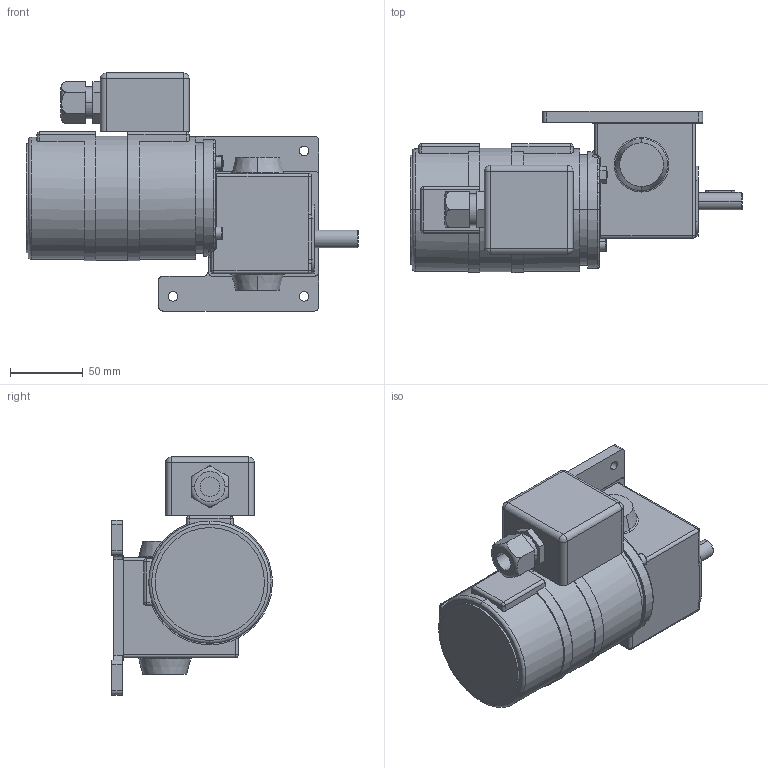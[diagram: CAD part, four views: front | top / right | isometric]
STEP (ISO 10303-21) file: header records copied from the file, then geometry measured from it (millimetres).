
FILE_DESCRIPTION (( 'STEP AP214' ), '1' );
FILE_NAME ('SN4_45W_1400Upm_Drehstrom-Motor.STEP', '2021-09-22T14:46:16', ( '' ), ( '' ), 'SwSTEP 2.0', 'SolidWorks 2019', '' );
FILE_SCHEMA (( 'AUTOMOTIVE_DESIGN' ));
Length unit declared in the file: millimetre
Products named in the file (14): socket set screw flat point_din_DIN 913 - M5 x 25-C; slotted pan head screw_din_DIN EN ISO 1580 - M5 x 12 - 12C; hex bolt gradeab_din_DIN EN 24014 - M5 x 25 x 25-C; 04-D-003; NBR_WDR_12x37x10; 04-M-080 I 45W_1400Upm; SN4_3D_Export; K_26x6,5; SN4_45W_1400Upm_Drehstrom-Motor; 04B-W-003_3D_Export; PF_A4x4x20; hex nut style 1 gradeab_din_Hexagon Nut ISO 4032 - M6 - D - C; socket head cap screw_din_DIN 912 M5 x 16 --- 16C; 04-G-006_3D_Export
Assembly tree (17 placements, depth 3):
  SN4_45W_1400Upm_Drehstrom-Motor
    SN4_3D_Export
      04-G-006_3D_Export
      04B-W-003_3D_Export
      04-D-003
      K_26x6,5
      NBR_WDR_12x37x10
      PF_A4x4x20
      socket head cap screw_din_DIN 912 M5 x 16 --- 16C  x2
      hex bolt gradeab_din_DIN EN 24014 - M5 x 25 x 25-C
      socket set screw flat point_din_DIN 913 - M5 x 25-C
      hex nut style 1 gradeab_din_Hexagon Nut ISO 4032 - M6 - D - C
      slotted pan head screw_din_DIN EN ISO 1580 - M5 x 12 - 12C  x4
    04-M-080 I 45W_1400Upm
Bounding box: 228 x 110.49 x 163.5 mm (x, y, z)
Volume: 1361329 mm3; surface area: 147442.9 mm2
Topology: 16 solids, 17 shells, 534 faces, 1223 edges, 734 vertices
Faces by surface type: plane 201, cylinder 198, cone 80, torus 32, sphere 15, bspline 8
Entity records: 14912 total; most frequent: CARTESIAN_POINT 3248, DIRECTION 2415, ORIENTED_EDGE 2092, EDGE_CURVE 1046, AXIS2_PLACEMENT_3D 966, VERTEX_POINT 647, EDGE_LOOP 539, CIRCLE 485
